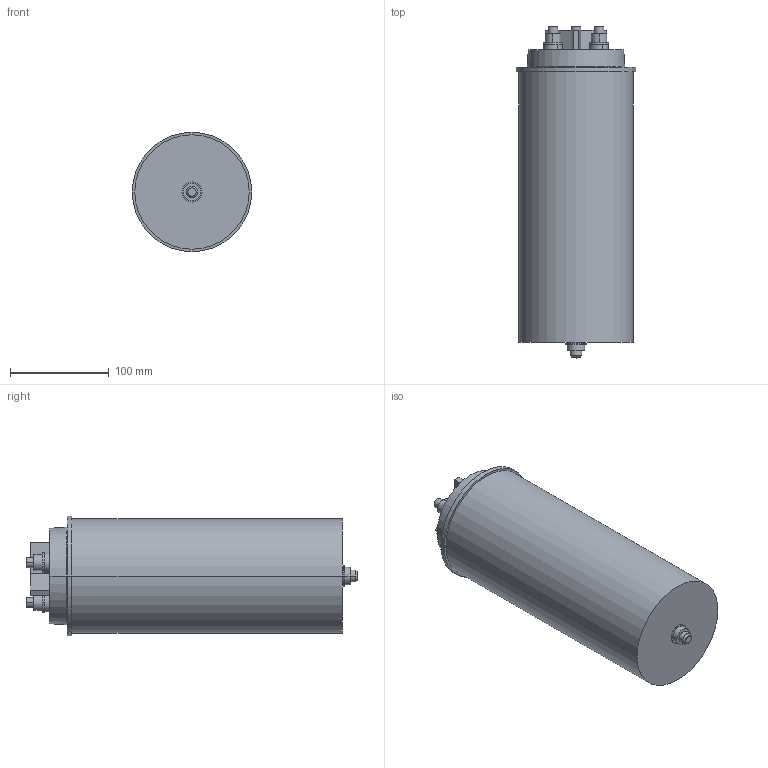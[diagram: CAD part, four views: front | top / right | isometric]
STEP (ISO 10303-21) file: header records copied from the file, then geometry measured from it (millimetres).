
FILE_DESCRIPTION((''),'2;1');
FILE_NAME('1701160929552_ASM','2023-11-28T14:12:44',('SESA644935'),('Schneider-Electric'),'CREO PARAMETRIC BY PTC INC, 2021284','CREO PARAMETRIC BY PTC INC, 2021284','');
FILE_SCHEMA(('AP242_MANAGED_MODEL_BASED_3D_ENGINEERING_MIM_LF { 1 0 10303 442 1 1 4 }'));
Length unit declared in the file: millimetre
Products named in the file (4): EMPTYNODE_1701160929601_ASM; BLRCH339A407B48-SIMPLIFIED; BLRCH339A407B48-3D_ASM; 1701160929552_ASM
Assembly tree (3 placements, depth 3):
  1701160929552_ASM
    EMPTYNODE_1701160929601_ASM
    BLRCH339A407B48-3D_ASM
      BLRCH339A407B48-SIMPLIFIED
Bounding box: 121.1 x 336.82 x 121.1 mm (x, y, z)
Volume: 3014730.2 mm3; surface area: 164199.2 mm2
Topology: 5 solids, 5 shells, 97 faces, 197 edges, 130 vertices
Faces by surface type: cylinder 50, plane 39, cone 8
Entity records: 3816 total; most frequent: DIRECTION 519, CARTESIAN_POINT 438, ORIENTED_EDGE 394, PRESENTATION_STYLE_ASSIGNMENT 257, AXIS2_PLACEMENT_3D 217, STYLED_ITEM 202, CURVE_STYLE 197, EDGE_CURVE 197
